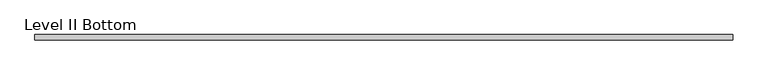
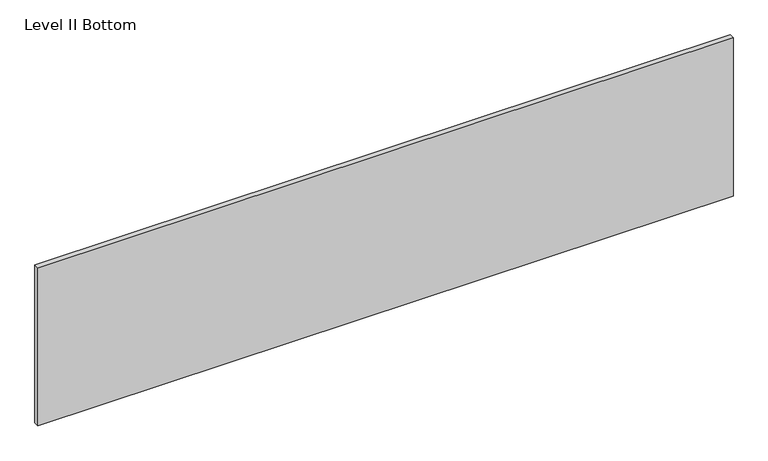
"""IFC4 building model written with IfcOpenShell, lengths in millimetres: proxy geometry, Panel-Fascia-Teknion-Altos-Landscape : Level II Bottom."""

from ifc_helpers import new_model, si_unit, frame, origin, place, context, project, spatial, polyline, outline, extrude, source, transform, mapped, element, save


def level_ii_bottom_2a449907(model_context):
    return source(origin(), model_context, "Body", "SweptSolid", [
        extrude(outline(polyline([(1252.8407125, 9.525), (1252.8407125, -9.525), (-1252.8407125, -9.525), (-1252.8407125, 9.525), (1252.8407125, 9.525)])), frame((0.0, 0.0, 3.175), z_axis=(0.0, 0.0, 1.0), x_axis=(1.0, 0.0, 0.0)), (0.0, 0.0, 1.0), 603.25),
    ])


if __name__ == "__main__":
    model = new_model("IFC4")
    model_context = context("Model", 3, world=origin())
    ifc_project = project(units=[si_unit("LENGTHUNIT", "METRE", prefix="MILLI")], contexts=[model_context])
    site = spatial("IfcSite", under=ifc_project)
    building = spatial("IfcBuilding", under=site)
    placement = place(None, origin())
    level_ii_bottom_shape = level_ii_bottom_2a449907(model_context)
    element("IfcBuildingElementProxy", 1, Name="Panel-Fascia-Teknion-Altos-Landscape : Level II Bottom", ObjectType="Panel-Fascia-Teknion-Altos-Landscape : Level II Bottom", at=placement, inside=building, context=model_context, shape_type="MappedRepresentation", body=[
        mapped(level_ii_bottom_shape, transform((0.0, 0.0, 0.0), x_axis=(1.0, 0.0, 0.0), y_axis=(0.0, 1.0, 0.0), z_axis=(0.0, 0.0, 1.0))),
    ])
    save(model, "model.ifc")
